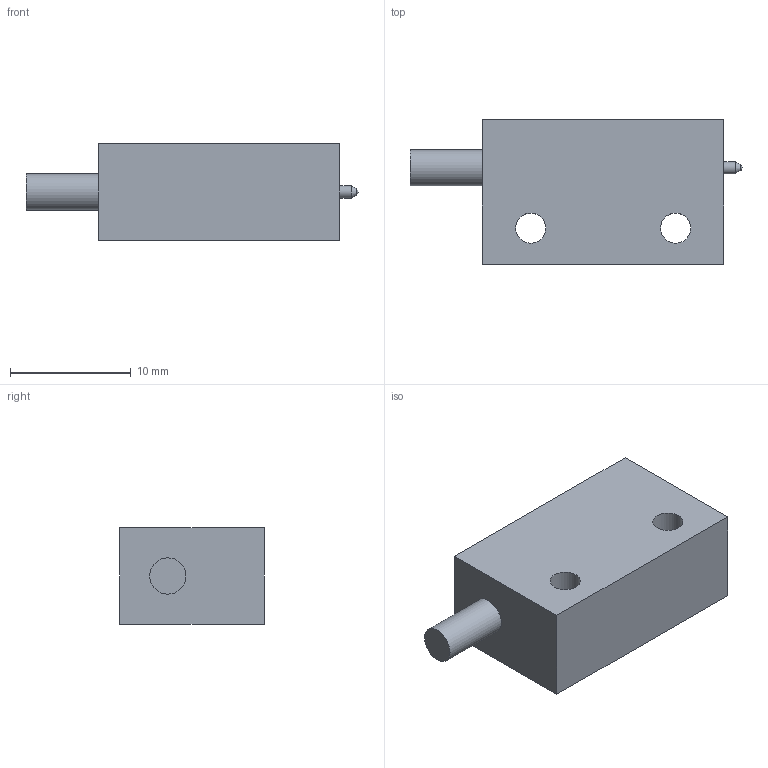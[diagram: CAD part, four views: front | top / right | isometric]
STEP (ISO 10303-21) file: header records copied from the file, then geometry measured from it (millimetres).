
FILE_DESCRIPTION( ( 'Unknown' ), '1' );
FILE_NAME( '//baumerholding.org/frauenfeld/bereich/BECH/Services/me_CAD/Solid Edge/Models/Dokumentationen/MyCom+MS/MyCom C/Vereinfachte Modelle/Neutralformate/MY COM_C.stp', 'Unknown', ( 'Unknown' ), ( 'Unknown' ), 'XStep 1.0', 'Unknown', ' ' );
FILE_SCHEMA( ( 'CONFIG_CONTROL_DESIGN' ) );
Length unit declared in the file: millimetre
Products named in the file (1): 1
Bounding box: 27.5 x 12 x 8 mm (x, y, z)
Volume: 1884.8 mm3; surface area: 1158.2 mm2
Topology: 1 solids, 1 shells, 13 faces, 27 edges, 18 vertices
Faces by surface type: plane 7, cylinder 4, sphere 1, cone 1
Full cylindrical faces by diameter (mm): 1 x1, 2.5 x2, 3 x1
Entity records: 368 total; most frequent: DIRECTION 58, CARTESIAN_POINT 52, ORIENTED_EDGE 42, EDGE_LOOP 24, AXIS2_PLACEMENT_3D 23, EDGE_CURVE 21, FACE_OUTER_BOUND 17, VERTEX_POINT 17
